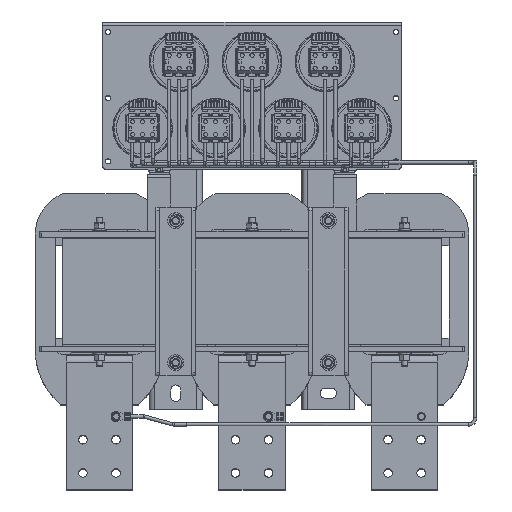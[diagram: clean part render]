
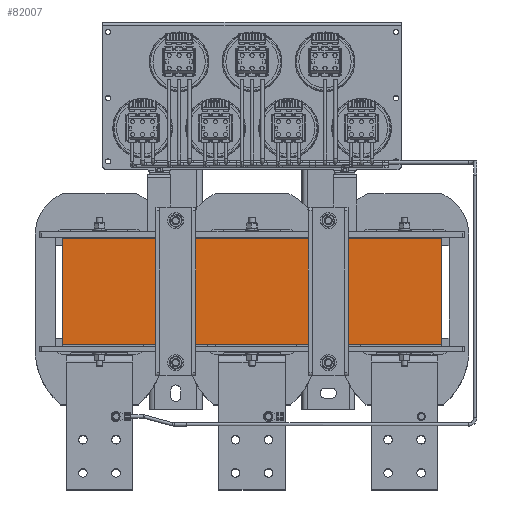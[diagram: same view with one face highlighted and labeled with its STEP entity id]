
A CAD part, top view. The second image highlights one B-rep face of the part: STEP entity #82007.
In plain terms, the highlighted planar face has unit normal (0, 0, 1).
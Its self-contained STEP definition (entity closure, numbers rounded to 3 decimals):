
#44 = VECTOR ( 'NONE', #46610, 1000. ) ;
#1322 = PLANE ( 'NONE',  #122138 ) ;
#1510 = EDGE_CURVE ( 'NONE', #4860, #125522, #53203, .T. ) ;
#4860 = VERTEX_POINT ( 'NONE', #84966 ) ;
#11373 = VERTEX_POINT ( 'NONE', #102534 ) ;
#19754 = VECTOR ( 'NONE', #119788, 1000. ) ;
#22697 = DIRECTION ( 'NONE',  ( 0., 0., 1. ) ) ;
#25026 = ORIENTED_EDGE ( 'NONE', *, *, #68916, .T. ) ;
#28077 = CARTESIAN_POINT ( 'NONE',  ( -285., -202., 660. ) ) ;
#31760 = ORIENTED_EDGE ( 'NONE', *, *, #109497, .T. ) ;
#32722 = CARTESIAN_POINT ( 'NONE',  ( -295., -232., 660. ) ) ;
#38588 = LINE ( 'NONE', #101338, #99684 ) ;
#45486 = DIRECTION ( 'NONE',  ( -1., 0., 0. ) ) ;
#46610 = DIRECTION ( 'NONE',  ( 1., 0., 0. ) ) ;
#53203 = LINE ( 'NONE', #104615, #110477 ) ;
#68916 = EDGE_CURVE ( 'NONE', #71253, #4860, #38588, .T. ) ;
#71253 = VERTEX_POINT ( 'NONE', #72820 ) ;
#72820 = CARTESIAN_POINT ( 'NONE',  ( 285., -42., 660. ) ) ;
#79063 = LINE ( 'NONE', #119136, #19754 ) ;
#82007 = ADVANCED_FACE ( 'NONE', ( #83515 ), #1322, .T. ) ;
#83515 = FACE_OUTER_BOUND ( 'NONE', #101270, .T. ) ;
#84966 = CARTESIAN_POINT ( 'NONE',  ( -285., -42., 660. ) ) ;
#87456 = ORIENTED_EDGE ( 'NONE', *, *, #1510, .T. ) ;
#97384 = CARTESIAN_POINT ( 'NONE',  ( 0., -202., 660. ) ) ;
#99684 = VECTOR ( 'NONE', #45486, 1000. ) ;
#101270 = EDGE_LOOP ( 'NONE', ( #104276, #31760, #25026, #87456 ) ) ;
#101338 = CARTESIAN_POINT ( 'NONE',  ( -295., -42., 660. ) ) ;
#101548 = DIRECTION ( 'NONE',  ( 1., 0., 0. ) ) ;
#102534 = CARTESIAN_POINT ( 'NONE',  ( 285., -202., 660. ) ) ;
#103965 = DIRECTION ( 'NONE',  ( 0., -1., 0. ) ) ;
#104276 = ORIENTED_EDGE ( 'NONE', *, *, #106984, .T. ) ;
#104615 = CARTESIAN_POINT ( 'NONE',  ( -285., -232., 660. ) ) ;
#106984 = EDGE_CURVE ( 'NONE', #125522, #11373, #130102, .T. ) ;
#109497 = EDGE_CURVE ( 'NONE', #11373, #71253, #79063, .T. ) ;
#110477 = VECTOR ( 'NONE', #103965, 1000. ) ;
#119136 = CARTESIAN_POINT ( 'NONE',  ( 285., -232., 660. ) ) ;
#119788 = DIRECTION ( 'NONE',  ( 0., 1., 0. ) ) ;
#122138 = AXIS2_PLACEMENT_3D ( 'NONE', #32722, #22697, #101548 ) ;
#125522 = VERTEX_POINT ( 'NONE', #28077 ) ;
#130102 = LINE ( 'NONE', #97384, #44 ) ;
